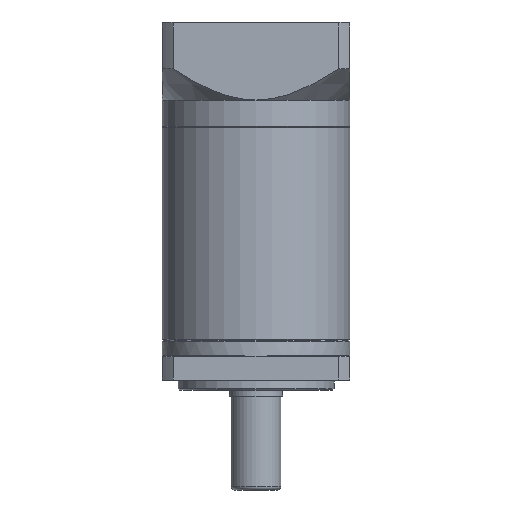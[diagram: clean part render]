
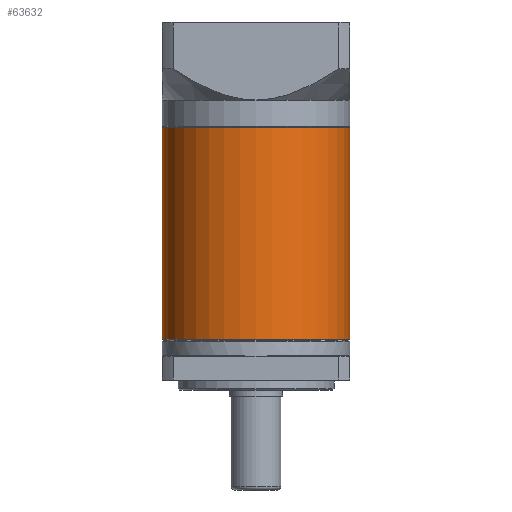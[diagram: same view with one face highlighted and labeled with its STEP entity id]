
A CAD part, front view. The second image highlights one B-rep face of the part: STEP entity #63632.
In plain terms, the highlighted cylindrical face has radius 30 mm (diameter 60 mm), a partial arc.
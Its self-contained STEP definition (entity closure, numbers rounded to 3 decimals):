
#1075 = CARTESIAN_POINT ( 'NONE',  ( -2.968, 26.169, -108.292 ) ) ;
#6712 = CARTESIAN_POINT ( 'NONE',  ( -32.968, 26.169, -40.492 ) ) ;
#6749 = CARTESIAN_POINT ( 'NONE',  ( -62.968, 26.169, -108.292 ) ) ;
#7168 = DIRECTION ( 'NONE',  ( 0., 0., -1. ) ) ;
#7367 = DIRECTION ( 'NONE',  ( -1., 0., 0. ) ) ;
#8190 = FACE_OUTER_BOUND ( 'NONE', #52483, .T. ) ;
#9183 = EDGE_CURVE ( 'NONE', #53269, #51544, #96087, .T. ) ;
#12574 = EDGE_CURVE ( 'NONE', #78548, #26930, #22894, .T. ) ;
#19683 = DIRECTION ( 'NONE',  ( 0., 0., -1. ) ) ;
#22894 = CIRCLE ( 'NONE', #35604, 30. ) ;
#23645 = EDGE_CURVE ( 'NONE', #53269, #26930, #72511, .T. ) ;
#26930 = VERTEX_POINT ( 'NONE', #1075 ) ;
#31167 = CARTESIAN_POINT ( 'NONE',  ( -32.968, 26.169, -40.242 ) ) ;
#35604 = AXIS2_PLACEMENT_3D ( 'NONE', #89608, #57850, #41853 ) ;
#35682 = CYLINDRICAL_SURFACE ( 'NONE', #95884, 30. ) ;
#41853 = DIRECTION ( 'NONE',  ( 1., 0., 0. ) ) ;
#46871 = DIRECTION ( 'NONE',  ( 1., 0., 0. ) ) ;
#50389 = CARTESIAN_POINT ( 'NONE',  ( -2.968, 26.169, -40.242 ) ) ;
#51544 = VERTEX_POINT ( 'NONE', #70165 ) ;
#52193 = ORIENTED_EDGE ( 'NONE', *, *, #23645, .F. ) ;
#52483 = EDGE_LOOP ( 'NONE', ( #52193, #63998, #99040, #91257 ) ) ;
#53269 = VERTEX_POINT ( 'NONE', #55460 ) ;
#54545 = DIRECTION ( 'NONE',  ( 0., 0., -1. ) ) ;
#55460 = CARTESIAN_POINT ( 'NONE',  ( -2.968, 26.169, -40.492 ) ) ;
#57850 = DIRECTION ( 'NONE',  ( 0., 0., 1. ) ) ;
#63632 = ADVANCED_FACE ( 'NONE', ( #8190 ), #35682, .T. ) ;
#63998 = ORIENTED_EDGE ( 'NONE', *, *, #9183, .T. ) ;
#70165 = CARTESIAN_POINT ( 'NONE',  ( -62.968, 26.169, -40.492 ) ) ;
#72511 = LINE ( 'NONE', #50389, #78719 ) ;
#77877 = AXIS2_PLACEMENT_3D ( 'NONE', #6712, #54545, #46871 ) ;
#78548 = VERTEX_POINT ( 'NONE', #6749 ) ;
#78719 = VECTOR ( 'NONE', #19683, 1000. ) ;
#79650 = DIRECTION ( 'NONE',  ( 0., 0., -1. ) ) ;
#83195 = EDGE_CURVE ( 'NONE', #51544, #78548, #93188, .T. ) ;
#89384 = VECTOR ( 'NONE', #7168, 1000. ) ;
#89608 = CARTESIAN_POINT ( 'NONE',  ( -32.968, 26.169, -108.292 ) ) ;
#91257 = ORIENTED_EDGE ( 'NONE', *, *, #12574, .T. ) ;
#93188 = LINE ( 'NONE', #94753, #89384 ) ;
#94753 = CARTESIAN_POINT ( 'NONE',  ( -62.968, 26.169, -40.242 ) ) ;
#95884 = AXIS2_PLACEMENT_3D ( 'NONE', #31167, #79650, #7367 ) ;
#96087 = CIRCLE ( 'NONE', #77877, 30. ) ;
#99040 = ORIENTED_EDGE ( 'NONE', *, *, #83195, .T. ) ;
